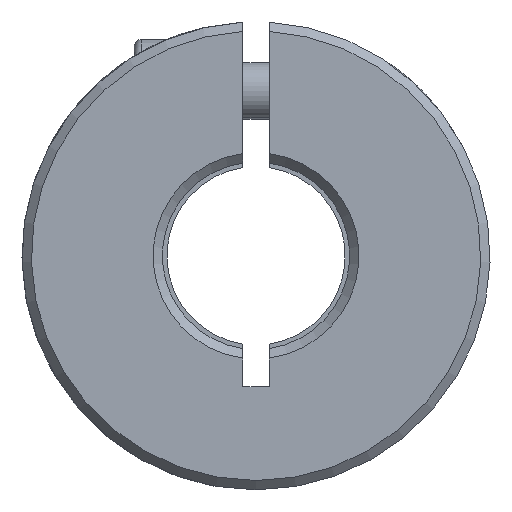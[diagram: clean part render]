
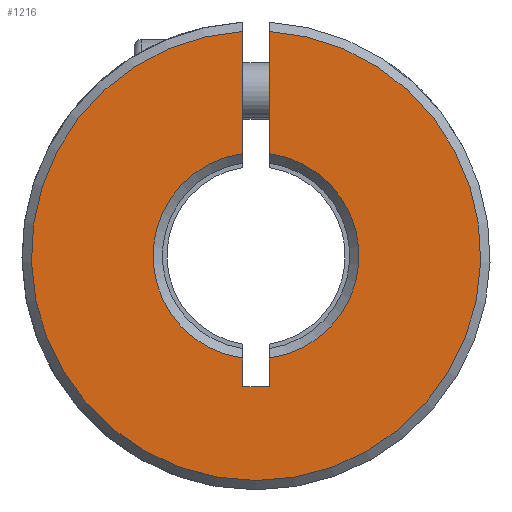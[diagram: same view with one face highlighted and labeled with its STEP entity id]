
A CAD part, front view. The second image highlights one B-rep face of the part: STEP entity #1216.
In plain terms, the highlighted planar face has unit normal (0, -1, 0).
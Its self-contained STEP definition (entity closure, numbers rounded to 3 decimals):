
#126 = DIRECTION ( 'NONE',  ( 0., 0., -1. ) ) ;
#209 = DIRECTION ( 'NONE',  ( 0., 0., 1. ) ) ;
#211 = ORIENTED_EDGE ( 'NONE', *, *, #401, .T. ) ;
#248 = CARTESIAN_POINT ( 'NONE',  ( 0., 0.25, 0. ) ) ;
#401 = EDGE_CURVE ( 'NONE', #4871, #1160, #4928, .T. ) ;
#450 = VERTEX_POINT ( 'NONE', #1288 ) ;
#568 = DIRECTION ( 'NONE',  ( 0., 1., 0. ) ) ;
#598 = DIRECTION ( 'NONE',  ( 0., 0., 1. ) ) ;
#606 = CARTESIAN_POINT ( 'NONE',  ( 0.7, 0.25, -7. ) ) ;
#612 = VECTOR ( 'NONE', #209, 1000. ) ;
#635 = VERTEX_POINT ( 'NONE', #1196 ) ;
#644 = PLANE ( 'NONE',  #1037 ) ;
#653 = DIRECTION ( 'NONE',  ( 0., -1., 0. ) ) ;
#748 = ORIENTED_EDGE ( 'NONE', *, *, #4458, .T. ) ;
#939 = LINE ( 'NONE', #2110, #1905 ) ;
#1028 = CARTESIAN_POINT ( 'NONE',  ( 12.5, 0.25, -50. ) ) ;
#1037 = AXIS2_PLACEMENT_3D ( 'NONE', #1028, #568, #5268 ) ;
#1058 = EDGE_CURVE ( 'NONE', #2135, #3940, #939, .T. ) ;
#1160 = VERTEX_POINT ( 'NONE', #4632 ) ;
#1196 = CARTESIAN_POINT ( 'NONE',  ( 0.7, 0.25, 11.98 ) ) ;
#1216 = ADVANCED_FACE ( 'NONE', ( #5240 ), #644, .F. ) ;
#1288 = CARTESIAN_POINT ( 'NONE',  ( -0.7, 0.25, 5.455 ) ) ;
#1376 = VERTEX_POINT ( 'NONE', #3307 ) ;
#1425 = DIRECTION ( 'NONE',  ( 0., 1., 0. ) ) ;
#1592 = ORIENTED_EDGE ( 'NONE', *, *, #4531, .F. ) ;
#1905 = VECTOR ( 'NONE', #3803, 1000. ) ;
#1997 = AXIS2_PLACEMENT_3D ( 'NONE', #5228, #3474, #4708 ) ;
#2049 = EDGE_CURVE ( 'NONE', #5184, #635, #5083, .T. ) ;
#2110 = CARTESIAN_POINT ( 'NONE',  ( -0.7, 0.25, -7. ) ) ;
#2135 = VERTEX_POINT ( 'NONE', #4635 ) ;
#2364 = CARTESIAN_POINT ( 'NONE',  ( 0., 0.25, 0. ) ) ;
#2709 = EDGE_CURVE ( 'NONE', #3940, #1376, #3549, .T. ) ;
#2723 = AXIS2_PLACEMENT_3D ( 'NONE', #2364, #653, #3607 ) ;
#3307 = CARTESIAN_POINT ( 'NONE',  ( 0.7, 0.25, -7. ) ) ;
#3369 = CARTESIAN_POINT ( 'NONE',  ( 0.7, 0.25, -7. ) ) ;
#3474 = DIRECTION ( 'NONE',  ( 0., 1., 0. ) ) ;
#3549 = LINE ( 'NONE', #4006, #4564 ) ;
#3607 = DIRECTION ( 'NONE',  ( 0., 0., 1. ) ) ;
#3655 = EDGE_CURVE ( 'NONE', #5184, #450, #5122, .T. ) ;
#3786 = ORIENTED_EDGE ( 'NONE', *, *, #2049, .T. ) ;
#3800 = ORIENTED_EDGE ( 'NONE', *, *, #2709, .F. ) ;
#3803 = DIRECTION ( 'NONE',  ( 0., 0., -1. ) ) ;
#3878 = VECTOR ( 'NONE', #126, 1000. ) ;
#3912 = ORIENTED_EDGE ( 'NONE', *, *, #3655, .F. ) ;
#3931 = CARTESIAN_POINT ( 'NONE',  ( -0.7, 0.25, -7. ) ) ;
#3940 = VERTEX_POINT ( 'NONE', #4637 ) ;
#4006 = CARTESIAN_POINT ( 'NONE',  ( 0.7, 0.25, -7. ) ) ;
#4045 = ORIENTED_EDGE ( 'NONE', *, *, #1058, .F. ) ;
#4252 = CARTESIAN_POINT ( 'NONE',  ( 0.7, 0.25, 5.455 ) ) ;
#4273 = CARTESIAN_POINT ( 'NONE',  ( -0.7, 0.25, 11.98 ) ) ;
#4375 = LINE ( 'NONE', #606, #612 ) ;
#4458 = EDGE_CURVE ( 'NONE', #2135, #450, #4483, .T. ) ;
#4483 = CIRCLE ( 'NONE', #1997, 5.5 ) ;
#4531 = EDGE_CURVE ( 'NONE', #1376, #1160, #4375, .T. ) ;
#4548 = VECTOR ( 'NONE', #5045, 1000. ) ;
#4564 = VECTOR ( 'NONE', #5272, 1000. ) ;
#4613 = ORIENTED_EDGE ( 'NONE', *, *, #5297, .F. ) ;
#4632 = CARTESIAN_POINT ( 'NONE',  ( 0.7, 0.25, -5.455 ) ) ;
#4635 = CARTESIAN_POINT ( 'NONE',  ( -0.7, 0.25, -5.455 ) ) ;
#4637 = CARTESIAN_POINT ( 'NONE',  ( -0.7, 0.25, -7. ) ) ;
#4708 = DIRECTION ( 'NONE',  ( 0., 0., 1. ) ) ;
#4826 = EDGE_LOOP ( 'NONE', ( #4613, #211, #1592, #3800, #4045, #748, #3912, #3786 ) ) ;
#4871 = VERTEX_POINT ( 'NONE', #4252 ) ;
#4928 = CIRCLE ( 'NONE', #5187, 5.5 ) ;
#5045 = DIRECTION ( 'NONE',  ( 0., 0., 1. ) ) ;
#5069 = LINE ( 'NONE', #3369, #4548 ) ;
#5083 = CIRCLE ( 'NONE', #2723, 12. ) ;
#5122 = LINE ( 'NONE', #3931, #3878 ) ;
#5184 = VERTEX_POINT ( 'NONE', #4273 ) ;
#5187 = AXIS2_PLACEMENT_3D ( 'NONE', #248, #1425, #598 ) ;
#5228 = CARTESIAN_POINT ( 'NONE',  ( 0., 0.25, 0. ) ) ;
#5240 = FACE_OUTER_BOUND ( 'NONE', #4826, .T. ) ;
#5268 = DIRECTION ( 'NONE',  ( 0., 0., 1. ) ) ;
#5272 = DIRECTION ( 'NONE',  ( 1., 0., 0. ) ) ;
#5297 = EDGE_CURVE ( 'NONE', #4871, #635, #5069, .T. ) ;
